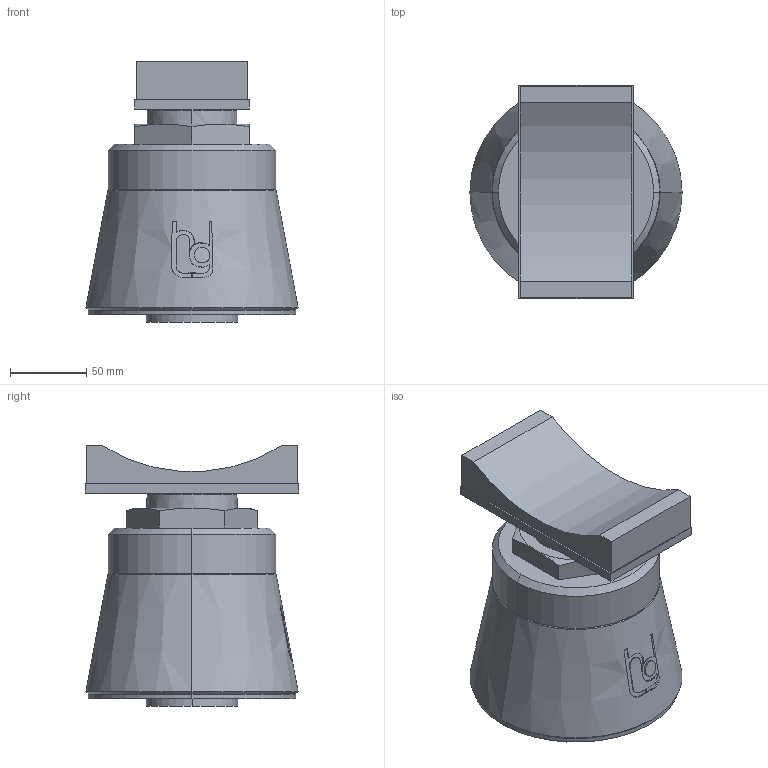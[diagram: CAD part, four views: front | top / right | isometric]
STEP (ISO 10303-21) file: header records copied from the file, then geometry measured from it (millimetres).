
FILE_DESCRIPTION(('STEP AP214'),'1');
FILE_NAME('RSRFS2_DN200.stp','2018-07-02T06:08:05',(' '),(' '),'Spatial InterOp 3D',' ',' ');
FILE_SCHEMA(('automotive_design'));
Length unit declared in the file: millimetre
Products named in the file (6): 1; 2; 3; 4; 5; 6
Bounding box: 139.44 x 140 x 171 mm (x, y, z)
Volume: 1957617.7 mm3; surface area: 204916.4 mm2
Topology: 6 solids, 6 shells, 127 faces, 313 edges, 202 vertices
Faces by surface type: plane 59, cylinder 37, cone 27, torus 4
Entity records: 5434 total; most frequent: CARTESIAN_POINT 1283, DIRECTION 639, ORIENTED_EDGE 626, EDGE_CURVE 313, AXIS2_PLACEMENT_3D 242, VERTEX_POINT 202, LINE 155, VECTOR 155
